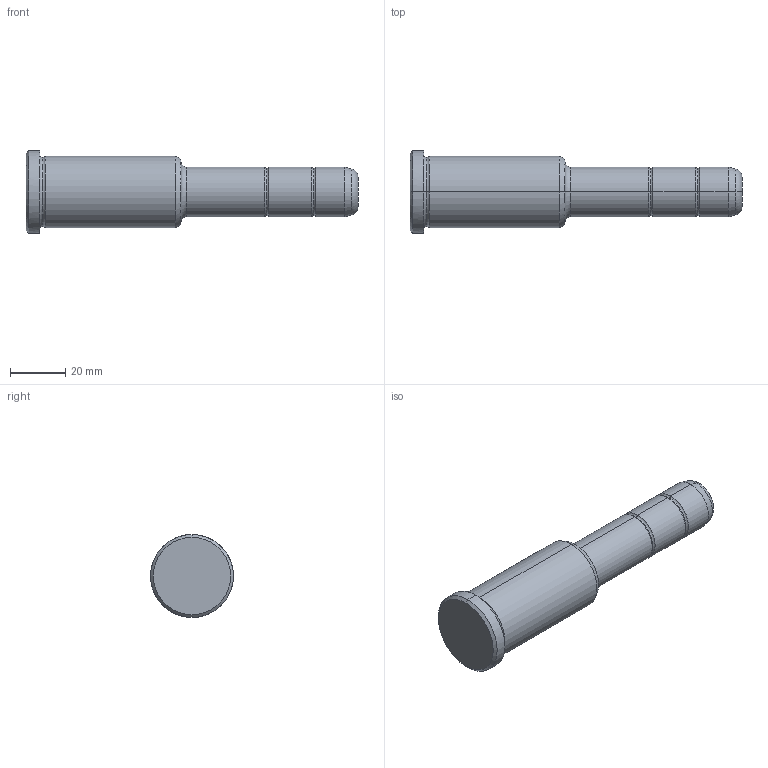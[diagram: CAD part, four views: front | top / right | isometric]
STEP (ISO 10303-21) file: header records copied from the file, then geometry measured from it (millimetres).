
FILE_DESCRIPTION(('CATIA V5 STEP Exchange'),'2;1');
FILE_NAME('C:\Users\Utente\Desktop\IO LAVORO\3D X SITO CF\X SITO\PLASTICA\351\351-18X56X120.stp','2021-08-18T13:00:32+00:00',('none'),('none'),'CATIA Version 5 Release 20 GA (IN-10)','CATIA V5 STEP AP203','none');
FILE_SCHEMA(('CONFIG_CONTROL_DESIGN'));
Length unit declared in the file: millimetre
Products named in the file (1): 351-18X56X120
Bounding box: 120 x 30 x 30 mm (x, y, z)
Volume: 46465.5 mm3; surface area: 9439.5 mm2
Topology: 1 solids, 1 shells, 36 faces, 102 edges, 70 vertices
Faces by surface type: torus 16, cylinder 10, cone 6, plane 4
Entity records: 1292 total; most frequent: CARTESIAN_POINT 321, ORIENTED_EDGE 204, DIRECTION 166, AXIS2_PLACEMENT_3D 115, EDGE_CURVE 102, CIRCLE 78, VERTEX_POINT 70, EDGE_LOOP 38
